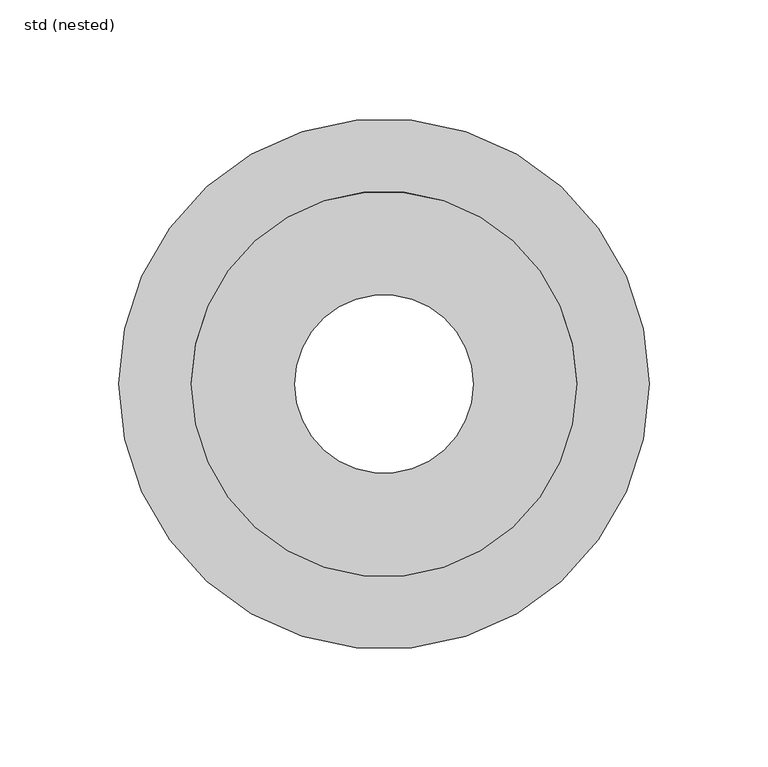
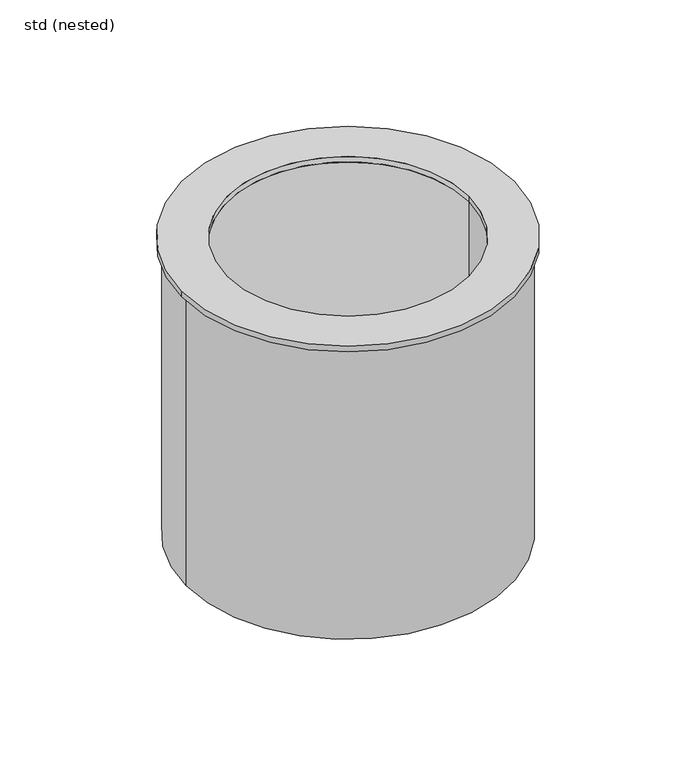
"""IFC4 building model written with IfcOpenShell, lengths in millimetres: damper geometry, ZZZ_do_not_use_PIA_GEN_UN_fire resistant kit for hygienic gullies_ACO : std (nested)."""

from ifc_helpers import new_model, si_unit, point, frame, origin, origin_with_axes, origin_2d, place, context, project, spatial, polyline, circle_curve, trimmed, segment, composite_curve, outline, extrude, source, transform, mapped, element, save
from ifc_brep_helpers import plane_surface, cylinder_surface, revolved_surface, advanced_brep


def std_nested_5fa89a83(model_context):
    return source(origin(), model_context, "Body", "SolidModel", [
        advanced_brep(
        [(-108.5, 0.0, -210.0), (108.5, 0.0, -210.0), (-37.5, 0.0, -210.0), (37.5, 0.0, -210.0), (-108.5, 0.0, -4.0), (108.5, 0.0, -4.0), (-81.0, 0.0, -4.0), (81.0, 0.0, -4.0), (-81.0, 0.0, -206.0), (81.0, 0.0, -206.0), (108.5, 0.0, -206.0), (-108.5, 0.0, -206.0), (-37.5, 0.0, -206.0), (37.5, 0.0, -206.0)],
        [
            (0, 1, circle_curve(frame((0.0, 0.0, -210.0), z_axis=(0.0, 0.0, -1.0), x_axis=(1.0, 0.0, 0.0)), 108.5)),
            (1, 0, circle_curve(frame((0.0, 0.0, -210.0), z_axis=(0.0, 0.0, -1.0), x_axis=(1.0, 0.0, 0.0)), 108.5)),
            (2, 3, circle_curve(frame((0.0, 0.0, -210.0), z_axis=(0.0, 0.0, 1.0), x_axis=(1.0, 0.0, 0.0)), 37.5)),
            (3, 2, circle_curve(frame((0.0, 0.0, -210.0), z_axis=(0.0, 0.0, 1.0), x_axis=(1.0, 0.0, 0.0)), 37.5)),
            (4, 5, circle_curve(frame((0.0, 0.0, -4.0), z_axis=(0.0, 0.0, 1.0), x_axis=(1.0, 0.0, 0.0)), 108.5)),
            (5, 4, circle_curve(frame((0.0, 0.0, -4.0), z_axis=(0.0, 0.0, 1.0), x_axis=(1.0, 0.0, 0.0)), 108.5)),
            (6, 7, circle_curve(frame((0.0, 0.0, -4.0), z_axis=(0.0, 0.0, -1.0), x_axis=(1.0, 0.0, 0.0)), 81.0)),
            (7, 6, circle_curve(frame((0.0, 0.0, -4.0), z_axis=(0.0, 0.0, -1.0), x_axis=(1.0, 0.0, 0.0)), 81.0)),
            (6, 8),
            (8, 9, circle_curve(frame((0.0, 0.0, -206.0), z_axis=(0.0, 0.0, -1.0), x_axis=(1.0, 0.0, 0.0)), 81.0)),
            (9, 7),
            (9, 8, circle_curve(frame((0.0, 0.0, -206.0), z_axis=(0.0, 0.0, -1.0), x_axis=(1.0, 0.0, 0.0)), 81.0)),
            (1, 10),
            (10, 5),
            (4, 11),
            (11, 0),
            (12, 13, circle_curve(frame((0.0, 0.0, -206.0), z_axis=(0.0, 0.0, -1.0), x_axis=(1.0, 0.0, 0.0)), 37.5)),
            (13, 12, circle_curve(frame((0.0, 0.0, -206.0), z_axis=(0.0, 0.0, -1.0), x_axis=(1.0, 0.0, 0.0)), 37.5)),
            (3, 13),
            (12, 2),
        ],
        [
            plane_surface(frame((81.0, 0.0, -210.0), z_axis=(0.0, 0.0, -1.0), x_axis=(0.0, 1.0, 0.0))),
            plane_surface(frame((81.0, 0.0, -4.0), z_axis=(0.0, 0.0, 1.0), x_axis=(0.0, -1.0, 0.0))),
            revolved_surface(polyline([(81.0, 0.0, -206.0), (81.0, 0.0, -4.0)]), (0.0, 0.0, -210.0), (0.0, 0.0, -1.0)),
            cylinder_surface(origin_with_axes(), 108.5),
            plane_surface(frame((108.5, 0.0, -206.0), z_axis=(0.0, 0.0, 1.0), x_axis=(0.0, 1.0, 0.0))),
            revolved_surface(polyline([(37.5, 0.0, -210.0), (37.5, 0.0, -206.0)]), (0.0, 0.0, 0.0), (0.0, 0.0, -1.0)),
        ],
        [
            (0, [[1, 2], [3, 4]]),
            (1, [[5, 6], [7, 8]]),
            (2, [[-7, 9, 10, 11]]),
            (2, [[-8, -11, 12, -9]]),
            (3, [[-2, 13, 14, -5, 15, 16]]),
            (3, [[-1, -16, -15, -6, -14, -13]]),
            (4, [[-10, -12], [17, 18]]),
            (5, [[-4, 19, -17, 20]]),
            (5, [[-3, -20, -18, -19]]),
        ],
    ),
        extrude(outline(composite_curve([segment(trimmed(circle_curve(origin_2d(), 111.5), [point((-111.5, 0.0))], [point((111.5, 0.0))], False, "CARTESIAN"), True, "CONTINUOUS"), segment(trimmed(circle_curve(origin_2d(), 111.5), [point((111.5, 0.0))], [point((-111.5, 0.0))], False, "CARTESIAN"), True, "CONTINUOUS")], self_intersect=False), holes=[composite_curve([segment(trimmed(circle_curve(origin_2d(), 81.0), [point((-81.0, 0.0))], [point((81.0, 0.0))], True, "CARTESIAN"), True, "CONTINUOUS"), segment(trimmed(circle_curve(origin_2d(), 81.0), [point((81.0, 0.0))], [point((-81.0, 0.0))], True, "CARTESIAN"), True, "CONTINUOUS")], self_intersect=False)]), frame((0.0, 0.0, -4.0), z_axis=(0.0, 0.0, 1.0), x_axis=(1.0, 0.0, 0.0)), (0.0, 0.0, 1.0), 4.0),
    ])


if __name__ == "__main__":
    model = new_model("IFC4")
    model_context = context("Model", 3, world=origin())
    ifc_project = project(units=[si_unit("LENGTHUNIT", "METRE", prefix="MILLI")], contexts=[model_context])
    site = spatial("IfcSite", under=ifc_project)
    building = spatial("IfcBuilding", under=site)
    placement = place(None, origin())
    std_nested_shape = std_nested_5fa89a83(model_context)
    element("IfcDamper", 1, ObjectType="ZZZ_do_not_use_PIA_GEN_UN_fire resistant kit for hygienic gullies_ACO : std (nested)", at=placement, inside=building, context=model_context, shape_type="MappedRepresentation", body=[
        mapped(std_nested_shape, transform((0.0, 0.0, 0.0), x_axis=(1.0, 0.0, 0.0), y_axis=(0.0, 1.0, 0.0), z_axis=(0.0, 0.0, 1.0))),
    ])
    save(model, "model.ifc")
